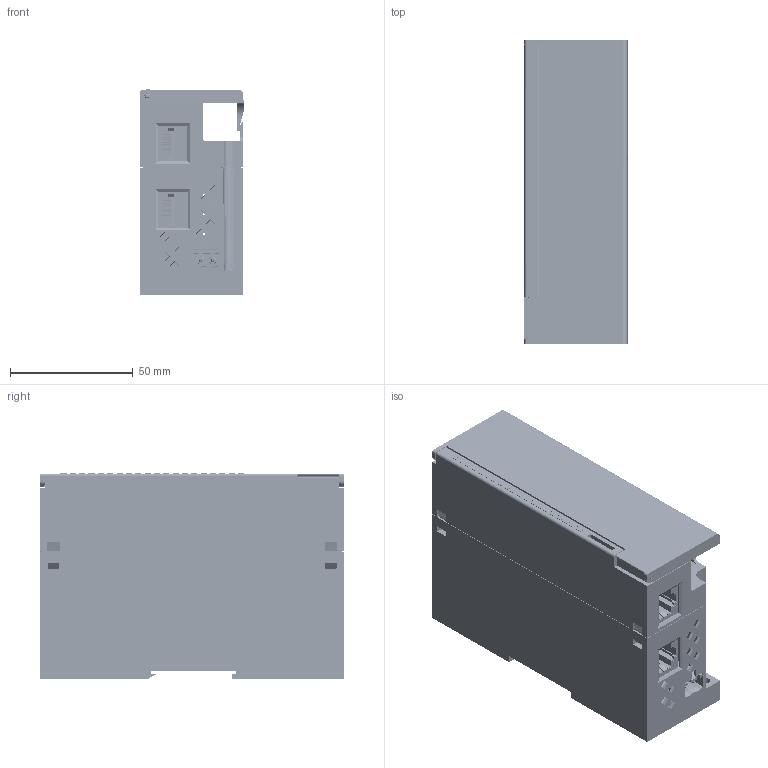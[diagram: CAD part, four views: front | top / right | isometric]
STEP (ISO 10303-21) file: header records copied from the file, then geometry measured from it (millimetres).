
FILE_DESCRIPTION (( 'STEP AP214' ), '1' );
FILE_NAME ('3D 斁麧錪 斨210-204.STEP', '2018-03-05T13:22:04', ( '' ), ( '' ), 'SwSTEP 2.0', 'SolidWorks 2015', '' );
FILE_SCHEMA (( 'AUTOMOTIVE_DESIGN' ));
Length unit declared in the file: millimetre
Products named in the file (1): 3D 斁麧錪 斨210-204
Bounding box: 42.15 x 124.15 x 83.6 mm (x, y, z)
Surface area: 182560.1 mm2 (no closed solid volume)
Topology: 0 solids, 246 shells, 15480 faces, 43561 edges, 28652 vertices
Faces by surface type: plane 12047, cylinder 2470, bspline 485, cone 426, torus 48, sphere 4
Entity records: 733586 total; most frequent: CARTESIAN_POINT 164124, ORIENTED_EDGE 86942, DIRECTION 75276, EDGE_CURVE 43501, VECTOR 35108, LINE 35108, VERTEX_POINT 28651, AXIS2_PLACEMENT_3D 20084
